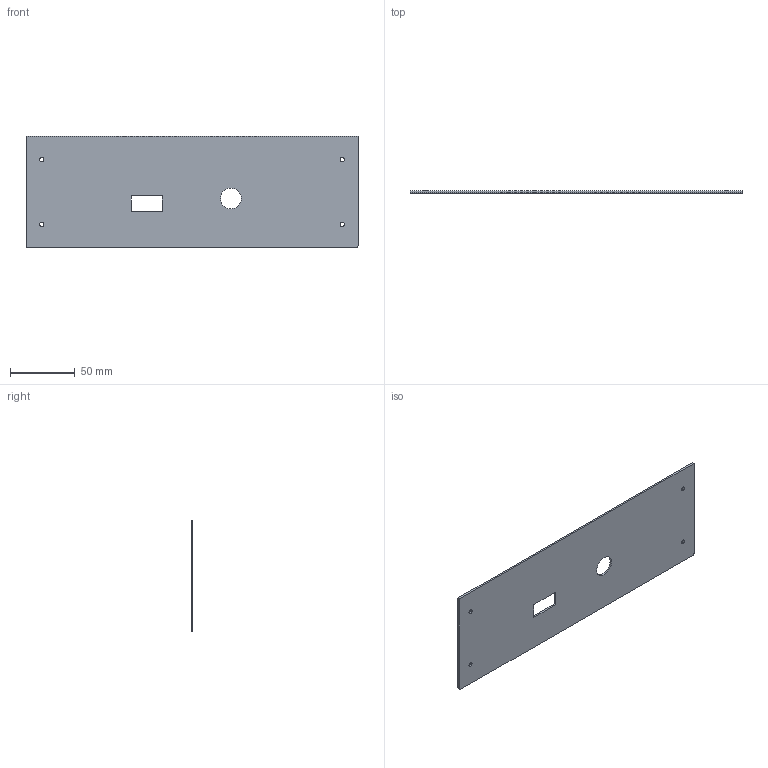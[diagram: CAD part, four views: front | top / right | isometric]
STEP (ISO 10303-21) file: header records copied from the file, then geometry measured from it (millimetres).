
FILE_DESCRIPTION(('Open CASCADE Model'),'2;1');
FILE_NAME('Open CASCADE Shape Model','2026-10-28T07:21:43',('Author'),( 'Open CASCADE'),'Open CASCADE STEP processor 7.8','Open CASCADE 7.8' ,'Unknown');
FILE_SCHEMA(('AUTOMOTIVE_DESIGN { 1 0 10303 214 1 1 1 1 }'));
Length unit declared in the file: millimetre
Products named in the file (1): Open CASCADE STEP translator 7.8 15
Bounding box: 256.4 x 1.5 x 86.4 mm (x, y, z)
Volume: 32439.5 mm3; surface area: 44526.4 mm2
Topology: 1 solids, 1 shells, 17 faces, 45 edges, 30 vertices
Faces by surface type: plane 10, cylinder 7
Full cylindrical faces by diameter (mm): 3.4 x4, 16 x1
Entity records: 1166 total; most frequent: CARTESIAN_POINT 259, DIRECTION 159, LINE 91, VECTOR 91, ORIENTED_EDGE 90, PCURVE 90, DEFINITIONAL_REPRESENTATION 90, EDGE_CURVE 45
